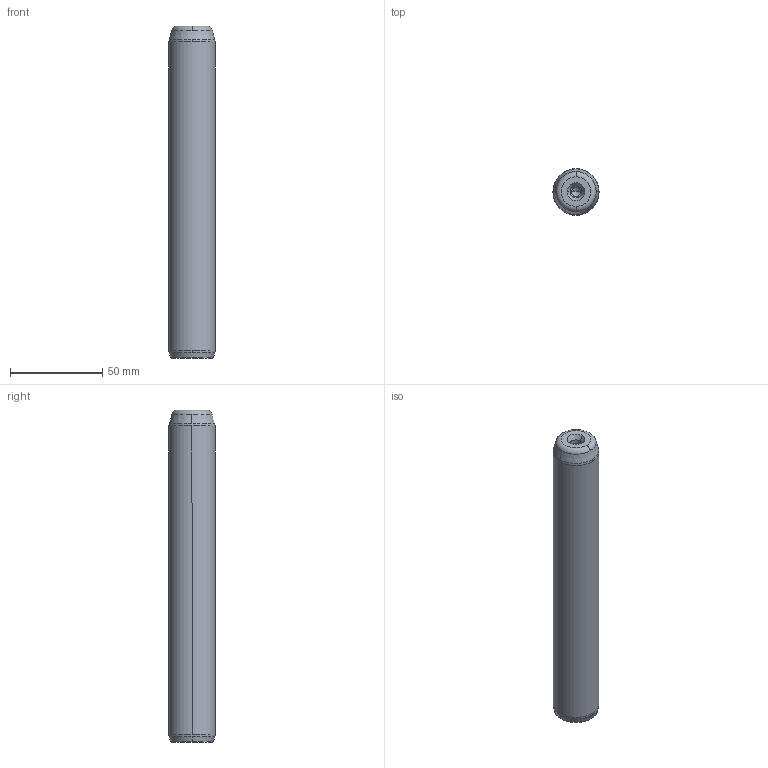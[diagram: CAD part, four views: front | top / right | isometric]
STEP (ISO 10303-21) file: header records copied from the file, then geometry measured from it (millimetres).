
FILE_DESCRIPTION((''),'2;1');
FILE_NAME('P10_025_180.stp','2008-12-23T14:55:02',(''),(''),'Mechanical Desktop 2009','Mechanical Desktop 2009',', , ');
FILE_SCHEMA(('CONFIG_CONTROL_DESIGN'));
Length unit declared in the file: millimetre
Products named in the file (5): Product; ProductAA; blmdl1; ProductA; blmdl1A
Assembly tree (2 placements, depth 3):
  Product
    ProductAA
      blmdl1
  ProductA
  blmdl1A
Bounding box: 25 x 25 x 180 mm (x, y, z)
Volume: 86988.6 mm3; surface area: 15140.1 mm2
Topology: 1 solids, 1 shells, 26 faces, 66 edges, 41 vertices
Faces by surface type: cone 10, torus 8, cylinder 6, plane 2
Entity records: 1012 total; most frequent: DIRECTION 170, CARTESIAN_POINT 134, ORIENTED_EDGE 128, AXIS2_PLACEMENT_3D 77, EDGE_CURVE 64, CIRCLE 48, VERTEX_POINT 41, EDGE_LOOP 27
